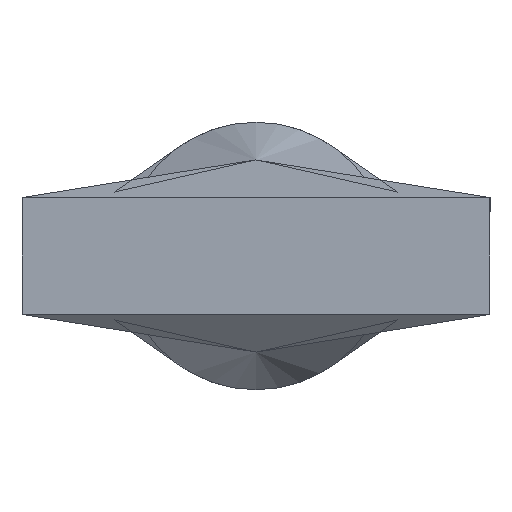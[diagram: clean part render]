
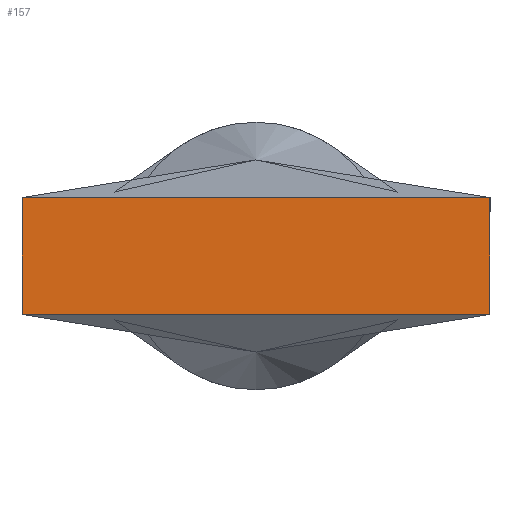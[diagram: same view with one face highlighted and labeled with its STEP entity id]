
A CAD part, left-side view. The second image highlights one B-rep face of the part: STEP entity #157.
In plain terms, the highlighted planar face has unit normal (-1, 0, 0).
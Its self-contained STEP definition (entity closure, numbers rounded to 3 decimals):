
#62 = DIRECTION ( 'NONE',  ( 0., 0., 1. ) ) ;
#79 = VECTOR ( 'NONE', #874, 1000. ) ;
#91 = LINE ( 'NONE', #156, #167 ) ;
#93 = DIRECTION ( 'NONE',  ( 0., 0., 1. ) ) ;
#102 = CARTESIAN_POINT ( 'NONE',  ( -35., 0., 1.75 ) ) ;
#120 = EDGE_LOOP ( 'NONE', ( #528, #1034, #122, #121 ) ) ;
#121 = ORIENTED_EDGE ( 'NONE', *, *, #1170, .F. ) ;
#122 = ORIENTED_EDGE ( 'NONE', *, *, #1219, .F. ) ;
#156 = CARTESIAN_POINT ( 'NONE',  ( -35., 7., -1.75 ) ) ;
#157 = ADVANCED_FACE ( 'NONE', ( #717 ), #204, .F. ) ;
#167 = VECTOR ( 'NONE', #62, 1000. ) ;
#204 = PLANE ( 'NONE',  #263 ) ;
#263 = AXIS2_PLACEMENT_3D ( 'NONE', #280, #302, #310 ) ;
#266 = CARTESIAN_POINT ( 'NONE',  ( -35., 0., -1.75 ) ) ;
#280 = CARTESIAN_POINT ( 'NONE',  ( -35., 0., -1.75 ) ) ;
#302 = DIRECTION ( 'NONE',  ( 1., 0., 0. ) ) ;
#310 = DIRECTION ( 'NONE',  ( 0., 0., -1. ) ) ;
#382 = EDGE_CURVE ( 'NONE', #742, #1007, #497, .T. ) ;
#391 = VECTOR ( 'NONE', #958, 1000. ) ;
#494 = EDGE_CURVE ( 'NONE', #1007, #1151, #1129, .T. ) ;
#497 = LINE ( 'NONE', #1054, #736 ) ;
#528 = ORIENTED_EDGE ( 'NONE', *, *, #382, .T. ) ;
#583 = VERTEX_POINT ( 'NONE', #804 ) ;
#627 = CARTESIAN_POINT ( 'NONE',  ( -35., -7., 1.75 ) ) ;
#717 = FACE_OUTER_BOUND ( 'NONE', #120, .T. ) ;
#736 = VECTOR ( 'NONE', #93, 1000. ) ;
#742 = VERTEX_POINT ( 'NONE', #930 ) ;
#804 = CARTESIAN_POINT ( 'NONE',  ( -35., 7., -1.75 ) ) ;
#874 = DIRECTION ( 'NONE',  ( 0., 1., 0. ) ) ;
#930 = CARTESIAN_POINT ( 'NONE',  ( -35., -7., -1.75 ) ) ;
#958 = DIRECTION ( 'NONE',  ( 0., 1., 0. ) ) ;
#1007 = VERTEX_POINT ( 'NONE', #627 ) ;
#1034 = ORIENTED_EDGE ( 'NONE', *, *, #494, .T. ) ;
#1054 = CARTESIAN_POINT ( 'NONE',  ( -35., -7., -1.75 ) ) ;
#1129 = LINE ( 'NONE', #102, #79 ) ;
#1142 = LINE ( 'NONE', #266, #391 ) ;
#1151 = VERTEX_POINT ( 'NONE', #1236 ) ;
#1170 = EDGE_CURVE ( 'NONE', #742, #583, #1142, .T. ) ;
#1219 = EDGE_CURVE ( 'NONE', #583, #1151, #91, .T. ) ;
#1236 = CARTESIAN_POINT ( 'NONE',  ( -35., 7., 1.75 ) ) ;
